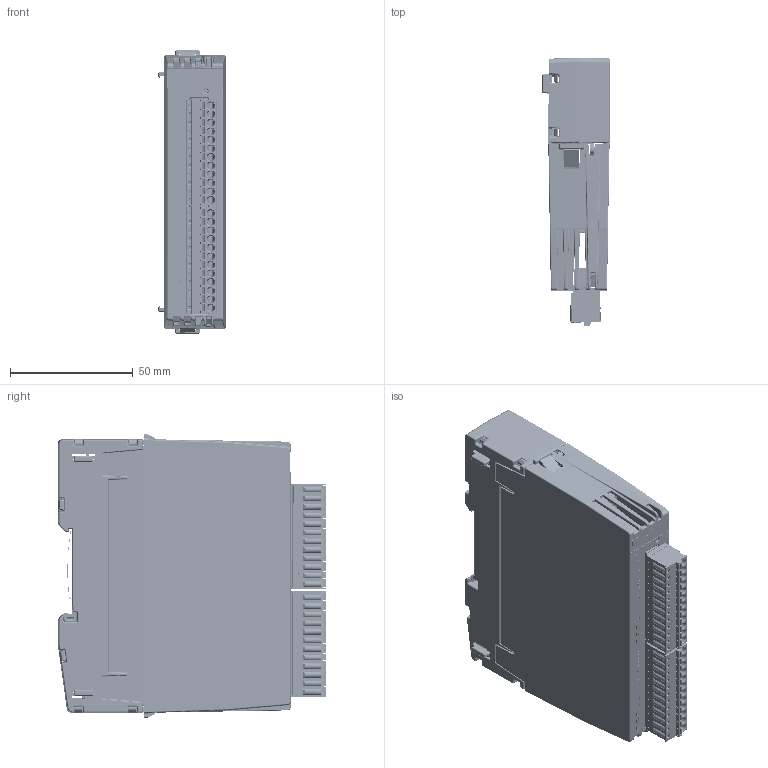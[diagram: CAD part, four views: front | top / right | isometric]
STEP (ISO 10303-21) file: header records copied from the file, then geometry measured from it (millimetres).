
FILE_DESCRIPTION(/* description */ (''),/* implementation_level */ '2;1');
FILE_NAME(/* name */ 'C:\Users\Public\Documents\Autodesk\Inventor 2023\IO14B_Simplified+BackBB21A.stp',/* time_stamp */ '2024-10-16T20:26:36+02:00',/* author */ ('shoma'),/* organization */ (''),/* preprocessor_version */ 'ST-DEVELOPER v19',/* originating_system */ 'Autodesk Inventor 2023',/* authorisation */ '');
FILE_SCHEMA (('AUTOMOTIVE_DESIGN { 1 0 10303 214 3 1 1 }'));
Products named in the file (1): IO14B_Simplified+BackBB21A
Bounding box: 27.4 x 109.39 x 115.5 mm (x, y, z)
Volume: 155135.1 mm3; surface area: 94473.3 mm2
Topology: 7 solids, 57 shells, 9493 faces, 25240 edges, 15922 vertices
Faces by surface type: plane 5774, cylinder 2404, bspline 871, cone 237, sphere 162, torus 45
Full cylindrical faces by diameter (mm): 0.296 x2, 0.3 x152, 0.457 x2, 0.7 x36, 0.8 x6, 0.85 x24, 0.9 x8, 1.17 x24, 1.2 x24, 1.25 x24, 1.3 x24, 1.4 x4, 1.6 x26, 2.35 x2, 2.5 x1, 3 x1, 3.1 x24, 3.25 x2
Entity records: 328189 total; most frequent: CARTESIAN_POINT 83846, ORIENTED_EDGE 50174, DIRECTION 46467, EDGE_CURVE 25087, LINE 17805, VECTOR 17805, VERTEX_POINT 15922, AXIS2_PLACEMENT_3D 14331
